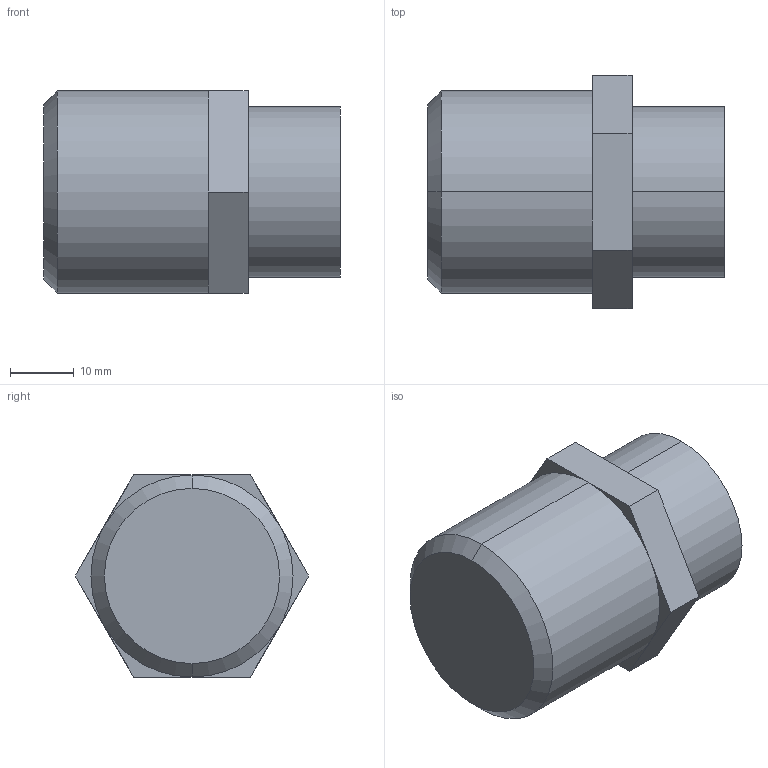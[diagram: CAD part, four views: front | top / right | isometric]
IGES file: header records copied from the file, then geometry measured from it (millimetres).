
Start section: SolidWorks IGES file using analytic representation for surfaces
Global section: file name: S:\Product Visuals\FILES FOR PUBLICATION\SOLID MODELS FOR PUBLICATION\60\front-mount-liquid-fitting\weldable\Fitting Weldable 12.IGS; native system: SolidWorks 2012; preprocessor: SolidWorks 2012; author: rachel.dressel; date: 121112.112336; units: inch
Bounding box: 46.58 x 36.66 x 31.75 mm (x, y, z)
Volume: 29372.5 mm3; surface area: 6976.4 mm2
Topology: 1 solids, 1 shells, 24 faces, 50 edges, 30 vertices
Faces by surface type: plane 16, revolution 8
